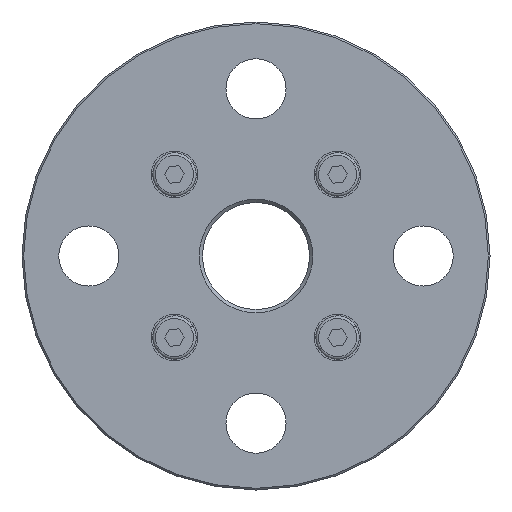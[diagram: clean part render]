
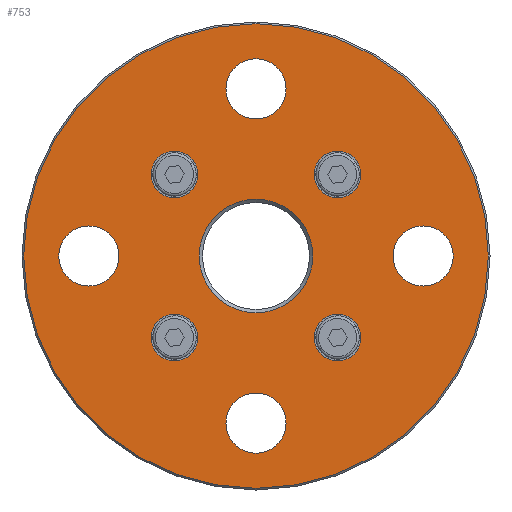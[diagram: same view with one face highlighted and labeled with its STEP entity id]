
A CAD part, front view. The second image highlights one B-rep face of the part: STEP entity #753.
In plain terms, the highlighted planar face has unit normal (0, -1, 0).
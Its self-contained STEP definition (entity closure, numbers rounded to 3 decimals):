
#311=FACE_BOUND('',#1299,.T.);
#312=FACE_BOUND('',#1300,.T.);
#313=FACE_BOUND('',#1301,.T.);
#314=FACE_BOUND('',#1302,.T.);
#315=FACE_BOUND('',#1303,.T.);
#316=FACE_BOUND('',#1304,.T.);
#317=FACE_BOUND('',#1305,.T.);
#318=FACE_BOUND('',#1306,.T.);
#319=FACE_BOUND('',#1307,.T.);
#320=FACE_BOUND('',#1308,.T.);
#474=PLANE('',#4060);
#753=ADVANCED_FACE('',(#311,#312,#313,#314,#315,#316,#317,#318,#319,#320),
#474,.T.);
#1299=EDGE_LOOP('',(#2394));
#1300=EDGE_LOOP('',(#2395));
#1301=EDGE_LOOP('',(#2396));
#1302=EDGE_LOOP('',(#2397));
#1303=EDGE_LOOP('',(#2398));
#1304=EDGE_LOOP('',(#2399));
#1305=EDGE_LOOP('',(#2400));
#1306=EDGE_LOOP('',(#2401));
#1307=EDGE_LOOP('',(#2402));
#1308=EDGE_LOOP('',(#2403));
#1553=CIRCLE('',#4050,9.);
#1554=CIRCLE('',#4051,9.);
#1555=CIRCLE('',#4052,9.);
#1556=CIRCLE('',#4053,9.);
#1557=CIRCLE('',#4054,7.);
#1558=CIRCLE('',#4055,7.);
#1559=CIRCLE('',#4056,7.);
#1560=CIRCLE('',#4057,7.);
#1561=CIRCLE('',#4058,17.);
#1562=CIRCLE('',#4059,69.5);
#2394=ORIENTED_EDGE('',*,*,#3189,.T.);
#2395=ORIENTED_EDGE('',*,*,#3190,.T.);
#2396=ORIENTED_EDGE('',*,*,#3191,.T.);
#2397=ORIENTED_EDGE('',*,*,#3192,.T.);
#2398=ORIENTED_EDGE('',*,*,#3193,.T.);
#2399=ORIENTED_EDGE('',*,*,#3194,.T.);
#2400=ORIENTED_EDGE('',*,*,#3195,.T.);
#2401=ORIENTED_EDGE('',*,*,#3196,.T.);
#2402=ORIENTED_EDGE('',*,*,#3197,.T.);
#2403=ORIENTED_EDGE('',*,*,#3198,.T.);
#2751=VERTEX_POINT('',#6183);
#2752=VERTEX_POINT('',#6185);
#2753=VERTEX_POINT('',#6187);
#2754=VERTEX_POINT('',#6189);
#2755=VERTEX_POINT('',#6191);
#2756=VERTEX_POINT('',#6193);
#2757=VERTEX_POINT('',#6195);
#2758=VERTEX_POINT('',#6197);
#2759=VERTEX_POINT('',#6199);
#2760=VERTEX_POINT('',#6201);
#3189=EDGE_CURVE('',#2751,#2751,#1553,.T.);
#3190=EDGE_CURVE('',#2752,#2752,#1554,.T.);
#3191=EDGE_CURVE('',#2753,#2753,#1555,.T.);
#3192=EDGE_CURVE('',#2754,#2754,#1556,.T.);
#3193=EDGE_CURVE('',#2755,#2755,#1557,.T.);
#3194=EDGE_CURVE('',#2756,#2756,#1558,.T.);
#3195=EDGE_CURVE('',#2757,#2757,#1559,.T.);
#3196=EDGE_CURVE('',#2758,#2758,#1560,.T.);
#3197=EDGE_CURVE('',#2759,#2759,#1561,.T.);
#3198=EDGE_CURVE('',#2760,#2760,#1562,.T.);
#4050=AXIS2_PLACEMENT_3D('',#6182,#5129,#5130);
#4051=AXIS2_PLACEMENT_3D('',#6184,#5131,#5132);
#4052=AXIS2_PLACEMENT_3D('',#6186,#5133,#5134);
#4053=AXIS2_PLACEMENT_3D('',#6188,#5135,#5136);
#4054=AXIS2_PLACEMENT_3D('',#6190,#5137,#5138);
#4055=AXIS2_PLACEMENT_3D('',#6192,#5139,#5140);
#4056=AXIS2_PLACEMENT_3D('',#6194,#5141,#5142);
#4057=AXIS2_PLACEMENT_3D('',#6196,#5143,#5144);
#4058=AXIS2_PLACEMENT_3D('',#6198,#5145,#5146);
#4059=AXIS2_PLACEMENT_3D('',#6200,#5147,#5148);
#4060=AXIS2_PLACEMENT_3D('',#6202,#5149,#5150);
#5129=DIRECTION('',(0.,1.,0.));
#5130=DIRECTION('',(-1.,0.,0.));
#5131=DIRECTION('',(0.,1.,0.));
#5132=DIRECTION('',(0.,0.,-1.));
#5133=DIRECTION('',(0.,1.,0.));
#5134=DIRECTION('',(1.,0.,0.));
#5135=DIRECTION('',(0.,1.,0.));
#5136=DIRECTION('',(0.,0.,1.));
#5137=DIRECTION('',(0.,1.,0.));
#5138=DIRECTION('',(-1.,0.,0.));
#5139=DIRECTION('',(0.,1.,0.));
#5140=DIRECTION('',(0.,0.,-1.));
#5141=DIRECTION('',(0.,1.,0.));
#5142=DIRECTION('',(1.,0.,0.));
#5143=DIRECTION('',(0.,1.,0.));
#5144=DIRECTION('',(0.,0.,1.));
#5145=DIRECTION('',(0.,1.,0.));
#5146=DIRECTION('',(0.,0.,-1.));
#5147=DIRECTION('',(0.,-1.,0.));
#5148=DIRECTION('',(0.,0.,-1.));
#5149=DIRECTION('',(0.,-1.,0.));
#5150=DIRECTION('',(0.,0.,-1.));
#6182=CARTESIAN_POINT('',(0.,-70.,50.));
#6183=CARTESIAN_POINT('',(-9.,-70.,50.));
#6184=CARTESIAN_POINT('',(-50.,-70.,0.));
#6185=CARTESIAN_POINT('',(-50.,-70.,-9.));
#6186=CARTESIAN_POINT('',(0.,-70.,-50.));
#6187=CARTESIAN_POINT('',(9.,-70.,-50.));
#6188=CARTESIAN_POINT('',(50.,-70.,0.));
#6189=CARTESIAN_POINT('',(50.,-70.,9.));
#6190=CARTESIAN_POINT('',(-24.395,-70.,24.395));
#6191=CARTESIAN_POINT('',(-31.395,-70.,24.395));
#6192=CARTESIAN_POINT('',(-24.395,-70.,-24.395));
#6193=CARTESIAN_POINT('',(-24.395,-70.,-31.395));
#6194=CARTESIAN_POINT('',(24.395,-70.,-24.395));
#6195=CARTESIAN_POINT('',(31.395,-70.,-24.395));
#6196=CARTESIAN_POINT('',(24.395,-70.,24.395));
#6197=CARTESIAN_POINT('',(24.395,-70.,31.395));
#6198=CARTESIAN_POINT('',(0.,-70.,0.));
#6199=CARTESIAN_POINT('',(0.,-70.,-17.));
#6200=CARTESIAN_POINT('',(0.,-70.,0.));
#6201=CARTESIAN_POINT('',(0.,-70.,-69.5));
#6202=CARTESIAN_POINT('',(0.,-70.,0.));
